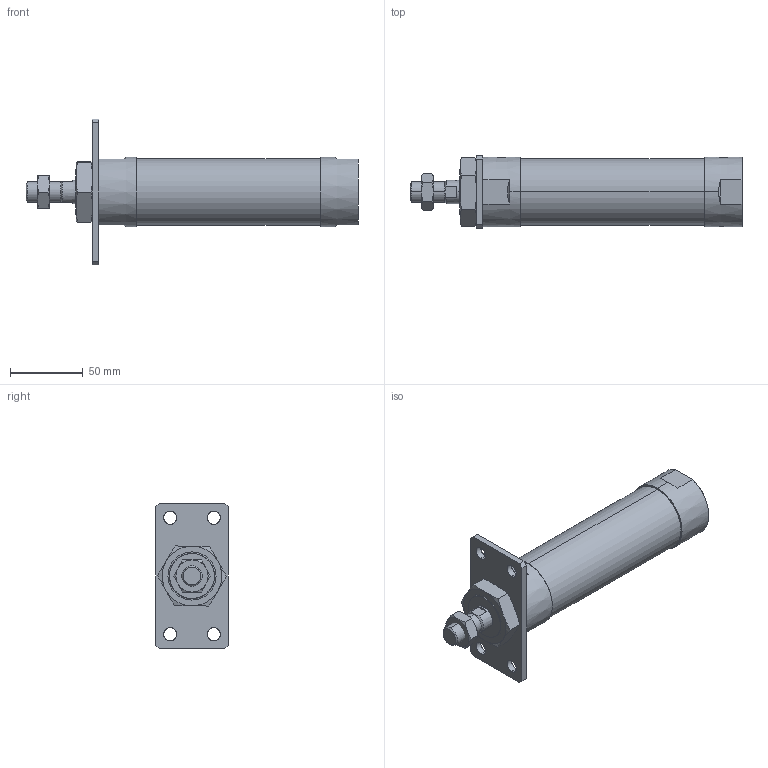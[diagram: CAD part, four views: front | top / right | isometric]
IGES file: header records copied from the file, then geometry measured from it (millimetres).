
Start section: SolidWorks IGES file using analytic representation for surfaces
Global section: file name: C:\Users\Toshiba\Desktop\JGND2-40-75-A.IGS; native system: SolidWorks 2014; preprocessor: SolidWorks 2014; author: Toshiba; date: 160804.110626; units: millimetre
Bounding box: 228 x 50 x 100 mm (x, y, z)
Surface area: 49732.5 mm2 (no closed solid volume)
Topology: 0 solids, 0 shells, 109 faces, 2174 edges, 2170 vertices
Faces by surface type: bspline 66, revolution 43
